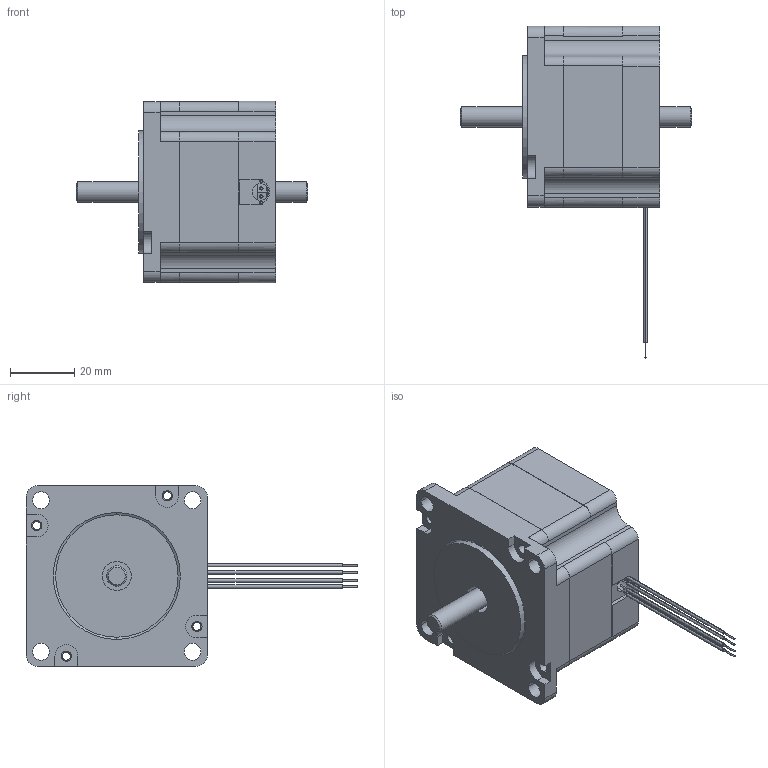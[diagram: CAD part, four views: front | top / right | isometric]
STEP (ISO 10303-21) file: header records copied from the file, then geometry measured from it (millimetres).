
FILE_DESCRIPTION( ('This file contains a STEP AP42 implementation' ,'as created by ZW3D STEP Interface translator.' ,'') ,'2;1' );
FILE_NAME( '57HS41H-XXXX-XXX.stp' ,'26 115. 94910', (''), ('ZWCAD Software Co.'), 'Version 1.0', 'ZW3D to STEP translator', '' );
FILE_SCHEMA(('AUTOMOTIVE_DESIGN { 1 0 10303 214 1 1 1 1 }'));
Length unit declared in the file: millimetre
Products named in the file (1): 0
Bounding box: 72 x 103.22 x 56.44 mm (x, y, z)
Volume: 65804.5 mm3; surface area: 49687.8 mm2
Topology: 4 solids, 4 shells, 1240 faces, 3933 edges, 2538 vertices
Faces by surface type: cylinder 561, plane 509, torus 112, cone 54, bspline 4
Full cylindrical faces by diameter (mm): 6.35 x2, 38.1 x1
Entity records: 45870 total; most frequent: CARTESIAN_POINT 8175, DIRECTION 7982, ORIENTED_EDGE 7866, EDGE_CURVE 3933, AXIS2_PLACEMENT_3D 2878, VERTEX_POINT 2538, VECTOR 2226, LINE 2226
